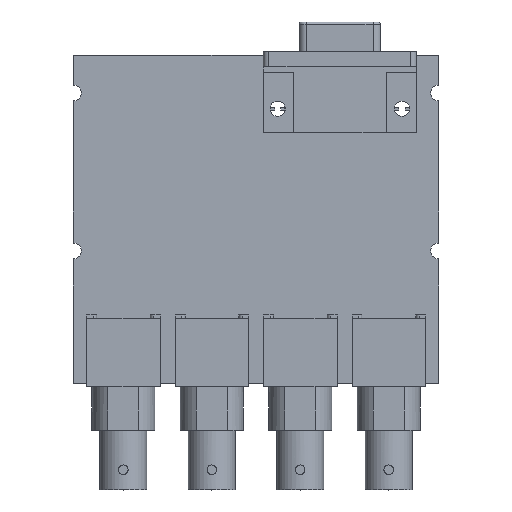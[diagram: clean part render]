
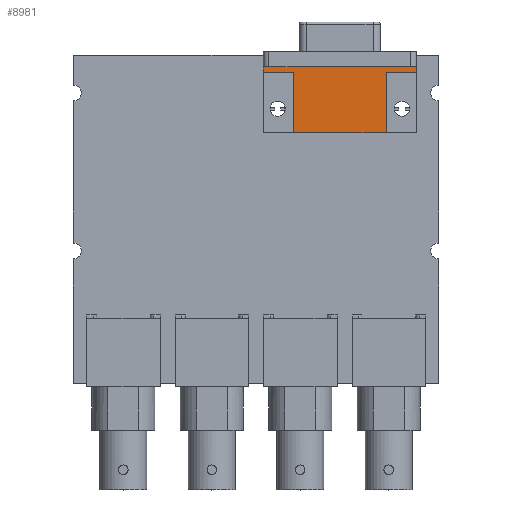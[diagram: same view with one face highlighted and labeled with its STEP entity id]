
A CAD part, top view. The second image highlights one B-rep face of the part: STEP entity #8981.
In plain terms, the highlighted planar face has unit normal (0, 0, 1).
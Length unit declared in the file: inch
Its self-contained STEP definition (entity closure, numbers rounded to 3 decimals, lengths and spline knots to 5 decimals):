
#485=DIRECTION('',(-1.,0.,0.));
#486=VECTOR('',#485,0.733);
#487=CARTESIAN_POINT('',(1.03,0.6865,0.476));
#488=LINE('',#487,#486);
#509=DIRECTION('',(0.,1.,0.));
#510=VECTOR('',#509,0.04);
#511=CARTESIAN_POINT('',(0.057,1.165,0.476));
#512=LINE('',#511,#510);
#1117=DIRECTION('',(0.,1.,0.));
#1118=VECTOR('',#1117,0.4785);
#1119=CARTESIAN_POINT('',(0.297,0.6865,0.476));
#1120=LINE('',#1119,#1118);
#1121=DIRECTION('',(1.,0.,0.));
#1122=VECTOR('',#1121,0.24);
#1123=CARTESIAN_POINT('',(0.057,1.165,0.476));
#1124=LINE('',#1123,#1122);
#1125=DIRECTION('',(-1.,0.,0.));
#1126=VECTOR('',#1125,1.213);
#1127=CARTESIAN_POINT('',(1.27,1.205,0.476));
#1128=LINE('',#1127,#1126);
#1129=DIRECTION('',(-1.,0.,0.));
#1130=VECTOR('',#1129,0.24);
#1131=CARTESIAN_POINT('',(1.27,1.165,0.476));
#1132=LINE('',#1131,#1130);
#1133=DIRECTION('',(0.,1.,0.));
#1134=VECTOR('',#1133,0.4785);
#1135=CARTESIAN_POINT('',(1.03,0.6865,0.476));
#1136=LINE('',#1135,#1134);
#1235=DIRECTION('',(0.,1.,0.));
#1236=VECTOR('',#1235,0.04);
#1237=CARTESIAN_POINT('',(1.27,1.165,0.476));
#1238=LINE('',#1237,#1236);
#6295=CARTESIAN_POINT('',(1.27,1.205,0.476));
#6296=CARTESIAN_POINT('',(0.057,1.205,0.476));
#6297=VERTEX_POINT('',#6295);
#6298=VERTEX_POINT('',#6296);
#6307=CARTESIAN_POINT('',(0.297,0.6865,0.476));
#6308=VERTEX_POINT('',#6307);
#6309=CARTESIAN_POINT('',(1.03,0.6865,0.476));
#6310=VERTEX_POINT('',#6309);
#6313=CARTESIAN_POINT('',(1.27,1.165,0.476));
#6314=VERTEX_POINT('',#6313);
#6317=CARTESIAN_POINT('',(0.057,1.165,0.476));
#6318=VERTEX_POINT('',#6317);
#6327=CARTESIAN_POINT('',(0.297,1.165,0.476));
#6328=VERTEX_POINT('',#6327);
#6329=CARTESIAN_POINT('',(1.03,1.165,0.476));
#6330=VERTEX_POINT('',#6329);
#8961=CARTESIAN_POINT('',(0.6635,1.325,0.476));
#8962=DIRECTION('',(0.,0.,1.));
#8963=DIRECTION('',(1.,0.,0.));
#8964=AXIS2_PLACEMENT_3D('',#8961,#8962,#8963);
#8965=PLANE('',#8964);
#8967=ORIENTED_EDGE('',*,*,#8966,.T.);
#8968=ORIENTED_EDGE('',*,*,#8947,.F.);
#8969=ORIENTED_EDGE('',*,*,#8378,.T.);
#8971=ORIENTED_EDGE('',*,*,#8970,.F.);
#8973=ORIENTED_EDGE('',*,*,#8972,.F.);
#8975=ORIENTED_EDGE('',*,*,#8974,.T.);
#8977=ORIENTED_EDGE('',*,*,#8976,.F.);
#8978=ORIENTED_EDGE('',*,*,#8353,.T.);
#8979=EDGE_LOOP('',(#8967,#8968,#8969,#8971,#8973,#8975,#8977,#8978));
#8980=FACE_OUTER_BOUND('',#8979,.F.);
#8981=ADVANCED_FACE('',(#8980),#8965,.T.);
#8353=EDGE_CURVE('',#6310,#6308,#488,.T.);
#8378=EDGE_CURVE('',#6318,#6298,#512,.T.);
#8947=EDGE_CURVE('',#6318,#6328,#1124,.T.);
#8966=EDGE_CURVE('',#6308,#6328,#1120,.T.);
#8970=EDGE_CURVE('',#6297,#6298,#1128,.T.);
#8972=EDGE_CURVE('',#6314,#6297,#1238,.T.);
#8974=EDGE_CURVE('',#6314,#6330,#1132,.T.);
#8976=EDGE_CURVE('',#6310,#6330,#1136,.T.);
